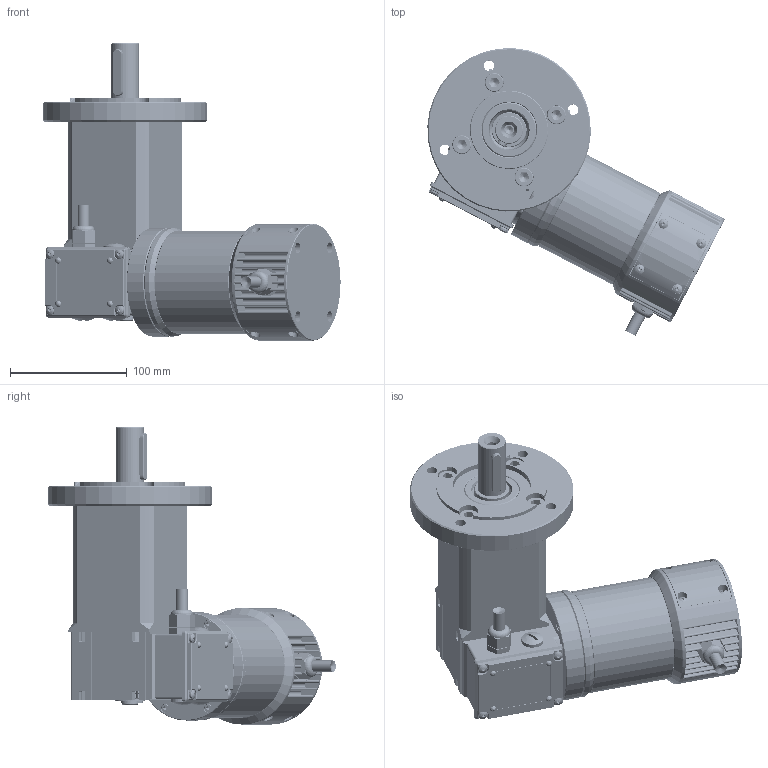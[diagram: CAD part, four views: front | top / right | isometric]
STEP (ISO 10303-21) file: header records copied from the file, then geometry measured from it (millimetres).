
FILE_DESCRIPTION((''),'2;1');
FILE_NAME('C:\Documents and Settings\marco\Desktop\DATI\DATI MARCO\Disegni inventor\STEP\PCCE\PCCE_MP3N-B5.stp','2003-08-27T16:15:34',('Administrator'),(''),'Autodesk Inventor 7','Autodesk Inventor 7','');
FILE_SCHEMA(('AUTOMOTIVE_DESIGN { 1 0 10303 214 1 1 1 1 }'));
Length unit declared in the file: millimetre
Products named in the file (1): PCCE_MP3N-B5
Bounding box: 254.39 x 246.1 x 254.5 mm (x, y, z)
Volume: 1348676.2 mm3; surface area: 436411.5 mm2
Topology: 75 solids, 79 shells, 5708 faces, 15716 edges, 10166 vertices
Faces by surface type: plane 2891, cylinder 1416, bspline 611, cone 584, torus 178, sphere 28
Entity records: 197694 total; most frequent: CARTESIAN_POINT 53386, ORIENTED_EDGE 31124, DIRECTION 29982, EDGE_CURVE 15562, AXIS2_PLACEMENT_3D 10592, VERTEX_POINT 10166, VECTOR 8798, LINE 8798
